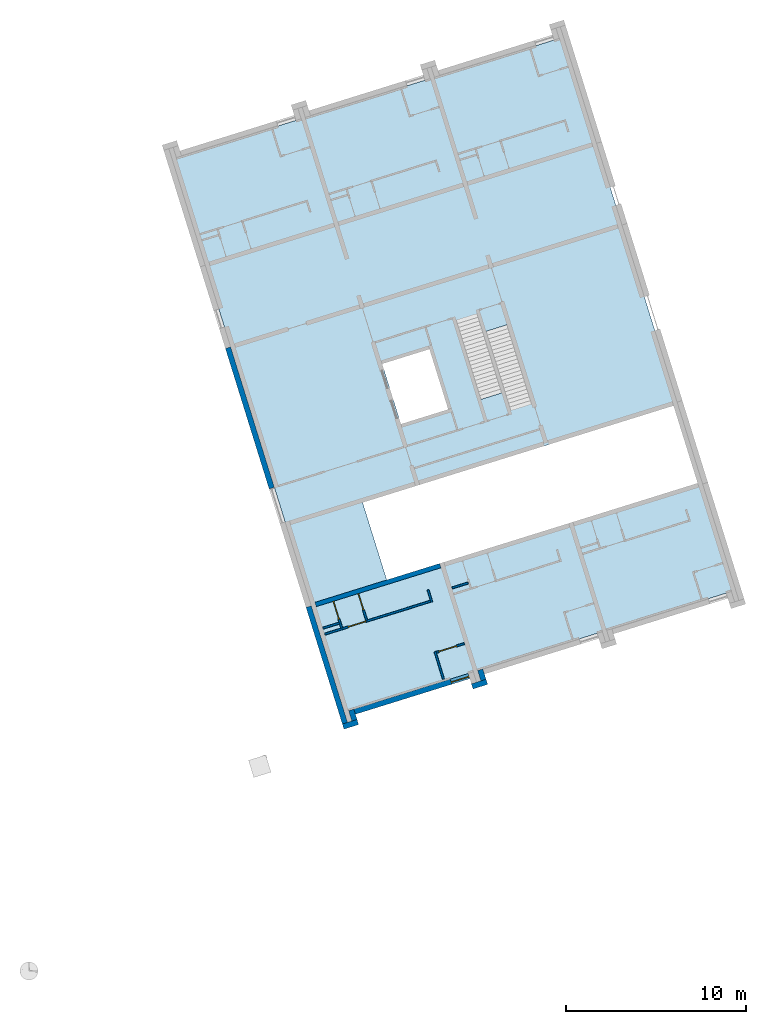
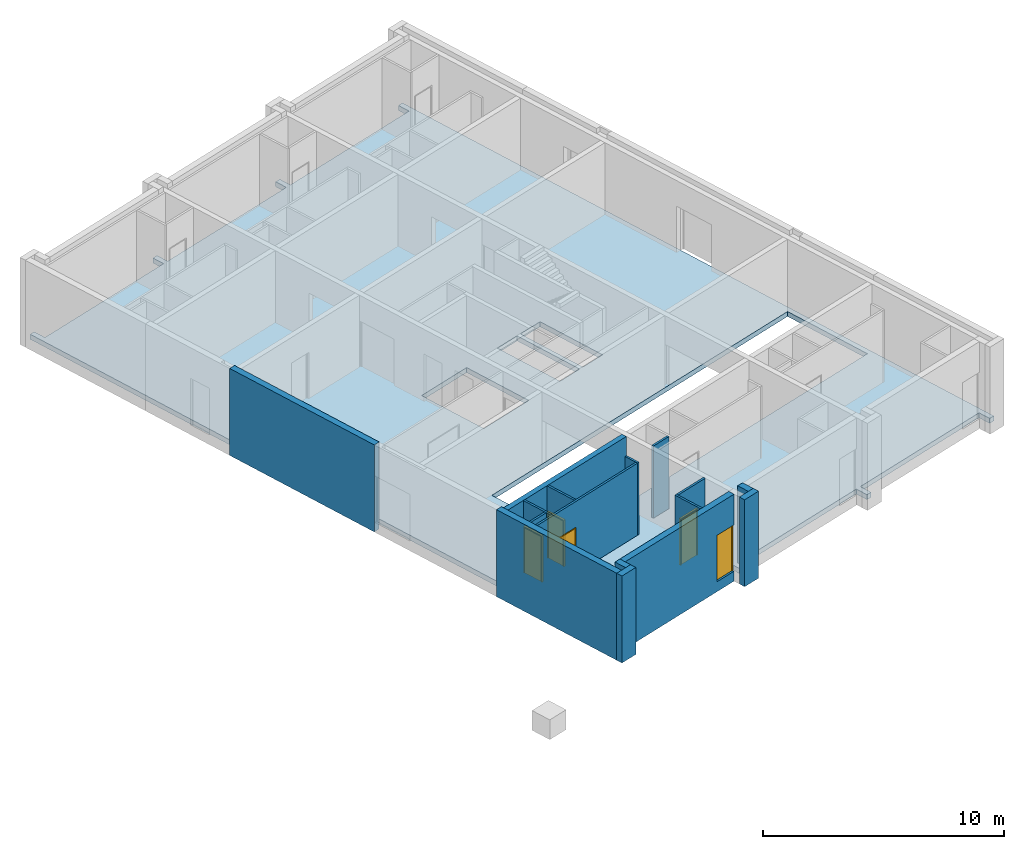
# One storey, part 1 of 10: 16 walls, 5 doors, 1 slab, 10 openings.
"""IFC4 building model written with IfcOpenShell, lengths in metres."""

from ifc_helpers import new_model, entity, si_unit, converted_unit, direction, frame, origin, place, context, subcontext, project, spatial, indexed_curve, outline, extrude, polygons, source, transform, mapped, material, constituent, constituent_set, type_object, type_shapes, element, fill, save


model = new_model("IFC4")

# Units and contexts
model_context = context("Model", 3, precision=1e-05, world=origin(), true_north=direction((6.12323399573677e-17, 1.0)))
body_context = subcontext(model_context, "Body", "Model", "MODEL_VIEW")
ifc_project = project(units=[si_unit("LENGTHUNIT", "METRE"), si_unit("AREAUNIT", "SQUARE_METRE"), si_unit("VOLUMEUNIT", "CUBIC_METRE"), converted_unit("PLANEANGLEUNIT", "DEGREE", entity("IfcPlaneAngleMeasure", 0.0174532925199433), si_unit("PLANEANGLEUNIT", "RADIAN"), dimensions=[0, 0, 0, 0, 0, 0, 0])], contexts=[model_context])

# Site, building, storey
site_placement = place(None, frame((13.1347999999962, 11.9886000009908, 0.0), z_axis=(0.0, 0.0, 1.0), x_axis=(0.954770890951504, 0.297342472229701, 0.0)))
site = spatial("IfcSite", under=ifc_project, at=site_placement, Name="Schiehaven", CompositionType="ELEMENT")
building_placement = place(site_placement, origin())
building = spatial("IfcBuilding", under=site, at=building_placement, Name="VORM huis", CompositionType="ELEMENT")
storey_placement = place(building_placement, origin())
storey = spatial("IfcBuildingStorey", under=building, at=storey_placement, Name="00 begane grond", CompositionType="ELEMENT", Elevation=0.0)

# Slab, openings
ifc_material_1 = material(Name="beton_gewapend_ihw", Category="Miscellaneous")
slab_type = type_object("IfcSlabType", Name="Floor:28_FL_skelet_vloer 250mm", PredefinedType="FLOOR", material=ifc_material_1)
slab_placement = place(storey_placement, origin())
slab = element("IfcSlab", 1, at=slab_placement, inside=storey, type_object=slab_type, material=ifc_material_1, Name="Constructieve vloer", ObjectType="Vloer", PredefinedType="FLOOR", context=body_context, shape_type="SweptSolid", body=[
    extrude(outline(indexed_curve([(-11.375, -16.6750000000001), (-11.1250000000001, -16.6750000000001), (-11.1250000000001, -16.075), (-3.87500000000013, -16.075), (-3.87500000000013, -16.675), (-3.62500000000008, -16.675), (-3.62500000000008, -16.075), (3.6249999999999, -16.075), (3.6249999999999, -16.6750000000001), (3.87500000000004, -16.6750000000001), (3.87500000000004, -16.075), (11.125, -16.0750000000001), (11.125, -16.675), (11.375, -16.675), (11.3750000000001, 16.675), (11.1250000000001, 16.675), (11.1250000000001, 16.075), (3.87500000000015, 16.075), (3.87500000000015, 16.675), (3.625, 16.675), (3.625, 16.075), (-3.62499999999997, 16.075), (-3.62499999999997, 16.675), (-3.87500000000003, 16.675), (-3.87500000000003, 16.075), (-11.125, 16.075), (-11.125, 16.6750000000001), (-11.3749999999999, 16.6750000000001), (-11.375, -16.6750000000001)], self_intersect=False), holes=[indexed_curve([(3.62500000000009, -1.75000000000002), (0.875000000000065, -1.75000000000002), (0.875000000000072, 1.74999999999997), (3.62500000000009, 1.74999999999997), (3.62500000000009, -1.75000000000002)], self_intersect=False), indexed_curve([(-11.1249999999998, 5.27499999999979), (-11.1249999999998, 9.77500000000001), (6.94799999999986, 9.77500000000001), (6.94799999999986, 5.27499999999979), (-11.1249999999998, 5.27499999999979)], self_intersect=False), indexed_curve([(-2.22499999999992, -1.76), (-2.22499999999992, 1.76), (-1.02499999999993, 1.76), (-1.02499999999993, -1.76), (-2.22499999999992, -1.76)], self_intersect=False), indexed_curve([(-2.42499999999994, 1.76), (-2.42499999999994, -1.76000000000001), (-3.62499999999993, -1.76000000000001), (-3.62499999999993, 1.76), (-2.42499999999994, 1.76)], self_intersect=False)]), frame((16.2500000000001, 17.05, -0.25), z_axis=(0.0, 0.0, 1.0), x_axis=(-1.0, 0.0, 0.0)), (0.0, 0.0, 1.0), 0.25),
])
opening_1_placement = place(slab_placement, origin())
element("IfcOpeningElement", 2, at=opening_1_placement, cuts=slab, Name="Constructieve vloer", PredefinedType="OPENING", context=body_context, shape_type="SweptSolid", body=[
    extrude(outline(indexed_curve([(-1.74999999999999, -1.37500000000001), (1.75, -1.37500000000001), (1.75, 1.37500000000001), (-1.75, 1.37500000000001), (-1.74999999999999, -1.37500000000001)], self_intersect=False)), frame((14.0, 17.05, -0.25), z_axis=(0.0, 0.0, 1.0), x_axis=(0.0, -1.0, 0.0)), (0.0, 0.0, 1.0), 0.25),
])
opening_2_placement = place(slab_placement, origin())
element("IfcOpeningElement", 3, at=opening_2_placement, cuts=slab, Name="Constructieve vloer", PredefinedType="OPENING", context=body_context, shape_type="SweptSolid", body=[
    extrude(outline(indexed_curve([(-9.03649999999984, -2.25000000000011), (9.03649999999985, -2.25000000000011), (9.03649999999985, 2.25000000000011), (-9.03649999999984, 2.25000000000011), (-9.03649999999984, -2.25000000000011)], self_intersect=False)), frame((18.3385000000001, 9.5250000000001, -0.25), z_axis=(0.0, 0.0, 1.0), x_axis=(-1.0, 0.0, 0.0)), (0.0, 0.0, 1.0), 0.25),
])
opening_3_placement = place(slab_placement, origin())
element("IfcOpeningElement", 4, at=opening_3_placement, cuts=slab, Name="Constructieve vloer", PredefinedType="OPENING", context=body_context, shape_type="SweptSolid", body=[
    extrude(outline(indexed_curve([(-0.599999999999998, -1.76), (0.599999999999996, -1.76), (0.599999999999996, 1.76), (-0.599999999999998, 1.76), (-0.599999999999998, -1.76)], self_intersect=False)), frame((17.8750000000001, 17.05, -0.25), z_axis=(0.0, 0.0, 1.0), x_axis=(-1.0, 0.0, 0.0)), (0.0, 0.0, 1.0), 0.25),
])

# Walls
ifc_material_2 = material(Name="ntb_ntb_ntb", Category="Miscellaneous")
wall_type_1 = type_object("IfcWallType", Name="Basic Wall: 300mm_gen", PredefinedType="STANDARD")
wall_1_placement = place(storey_placement, frame((4.72500000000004, 0.375000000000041, -0.5), z_axis=(0.0, 0.0, 1.0), x_axis=(0.0, 1.0, 0.0)))
element("IfcWall", 5, at=wall_1_placement, inside=storey, type_object=wall_type_1, material=ifc_material_2, Name="Gevelwand", ObjectType="Wand", PredefinedType="NOTDEFINED", context=body_context, shape_type="SweptSolid", body=[
    extrude(outline(indexed_curve([(6.77500000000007, 0.15), (2.24782887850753e-16, 0.15), (-2.24782887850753e-16, -0.15), (6.77500000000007, -0.15), (6.77500000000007, 0.15)], self_intersect=False)), origin(), (0.0, 0.0, 1.0), 4.4),
])
wall_2_placement = place(storey_placement, frame((4.72500000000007, 14.0400000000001, -0.5), z_axis=(0.0, 0.0, 1.0), x_axis=(0.0, 1.0, 0.0)))
element("IfcWall", 6, at=wall_2_placement, inside=storey, type_object=wall_type_1, material=ifc_material_2, Name="Gevelwand", ObjectType="Wand", PredefinedType="NOTDEFINED", context=body_context, shape_type="SweptSolid", body=[
    extrude(outline(indexed_curve([(8.15999999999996, 0.15), (-3.08537509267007e-16, 0.15), (3.08537509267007e-16, -0.15), (8.15999999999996, -0.15), (8.15999999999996, 0.15)], self_intersect=False)), origin(), (0.0, 0.0, 1.0), 4.4),
])
wall_3_placement = place(storey_placement, frame((5.42500000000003, 0.22500000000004, -0.5), z_axis=(0.0, 0.0, 1.0), x_axis=(-1.0, 0.0, 0.0)))
element("IfcWall", 7, at=wall_3_placement, inside=storey, type_object=wall_type_1, material=ifc_material_2, Name="Gevelwand", ObjectType="Wand", PredefinedType="NOTDEFINED", context=body_context, shape_type="SweptSolid", body=[
    extrude(outline(indexed_curve([(0.84999999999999, 0.15), (-3.08086889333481e-16, 0.15), (3.08086889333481e-16, -0.15), (0.84999999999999, -0.15), (0.84999999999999, 0.15)], self_intersect=False)), origin(), (0.0, 0.0, 1.0), 4.4),
])
wall_4_placement = place(storey_placement, frame((5.27500000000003, 0.975000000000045, -0.5), z_axis=(0.0, 0.0, 1.0), x_axis=(0.0, -1.0, 0.0)))
element("IfcWall", 8, at=wall_4_placement, inside=storey, type_object=wall_type_1, material=ifc_material_2, Name="Gevelwand", ObjectType="Wand", PredefinedType="NOTDEFINED", context=body_context, shape_type="SweptSolid", body=[
    extrude(outline(indexed_curve([(0.600000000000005, 0.149999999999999), (0.0, 0.149999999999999), (0.0, -0.149999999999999), (0.600000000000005, -0.149999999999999), (0.600000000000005, 0.149999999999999)], self_intersect=False)), origin(), (0.0, 0.0, 1.0), 4.4),
])

# Wall, openings, door
wall_5_placement = place(storey_placement, frame((12.075, 0.825000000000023, -0.5), z_axis=(0.0, 0.0, 1.0), x_axis=(-1.0, 0.0, 0.0)))
wall_5 = element("IfcWall", 9, at=wall_5_placement, inside=storey, type_object=wall_type_1, material=ifc_material_2, Name="Gevelwand", ObjectType="Wand", PredefinedType="NOTDEFINED", context=body_context, shape_type="Tessellation", body=[
    polygons([(9.28992242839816e-16, -0.15, 0.0), (6.64999999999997, -0.15, 0.0), (6.64999999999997, -0.15, 4.4), (9.28992242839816e-16, -0.15, 4.4), (9.28992242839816e-16, -0.15, 2.84999999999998), (1.04999999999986, -0.15, 2.84999999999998), (1.04999999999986, -0.15, 0.5), (9.28992242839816e-16, -0.15, 0.5), (6.64999999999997, 0.15, 0.0), (-2.32312960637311e-17, 0.15, 0.0), (-2.32312960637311e-17, 0.15, 0.5), (1.04999999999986, 0.15, 0.5), (1.04999999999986, 0.15, 2.84999999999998), (-2.32312960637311e-17, 0.15, 2.84999999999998), (-2.32312960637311e-17, 0.15, 4.4), (6.64999999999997, 0.15, 4.4)], [[[1, 2, 3, 4, 5, 6, 7, 8]], [[9, 10, 11, 12, 13, 14, 15, 16]], [[2, 1, 10, 9]], [[4, 3, 16, 15]], [[10, 1, 8, 11]], [[3, 2, 9, 16]], [[6, 13, 12, 7]], [[7, 12, 11, 8]], [[13, 6, 5, 14]], [[4, 15, 14, 5]]], closed=True),
])
opening_4_placement = place(wall_5_placement, frame((0.0, -0.15, 0.5)))
opening_4 = element("IfcOpeningElement", 10, at=opening_4_placement, cuts=wall_5, Name="Woningtoegangsdeur", PredefinedType="OPENING", context=body_context, shape_type="SweptSolid", body=[
    extrude(outline(indexed_curve([(2.34999999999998, 1.05), (0.0, 1.05), (0.0, 0.0), (2.34999999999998, 0.0), (2.34999999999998, 1.05)], self_intersect=False)), frame((0.0, 0.0, 0.0), z_axis=(0.0, 1.0, 0.0), x_axis=(0.0, 0.0, 1.0)), (0.0, 0.0, 1.0), 0.3),
])
opening_5_placement = place(wall_5_placement, frame((12.075, 0.825000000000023, 0.5), z_axis=(0.0, 0.0, 1.0), x_axis=(-1.0, 0.0, 0.0)))
element("IfcOpeningElement", 11, at=opening_5_placement, cuts=wall_5, Name="Woningtoegangsdeur", PredefinedType="OPENING", context=body_context, shape_type="SweptSolid", body=[
    extrude(outline(indexed_curve([(-1.17499999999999, -0.525), (1.17499999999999, -0.525), (1.17499999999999, 0.525000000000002), (-1.17499999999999, 0.525000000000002), (-1.17499999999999, -0.525)], self_intersect=False)), frame((11.5500000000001, 2.49900000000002, 1.17499999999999), z_axis=(0.0, -1.0, 0.0), x_axis=(0.0, 0.0, -1.0)), (0.0, 0.0, 1.0), 3.048),
])
ifc_material_3 = material(Name="PD_a_buitenwandopeningen", Category="Miscellaneous")
ifc_constituent_1 = constituent(ifc_material_3, Name="PD_a_buitenwandopeningen", Category="Miscellaneous")
ifc_material_4 = material(Name="metaal_aluminium_ntb", Category="Miscellaneous")
ifc_constituent_2 = constituent(ifc_material_4, Name="metaal_aluminium_ntb", Category="Miscellaneous")
ifc_constituent_set_1 = constituent_set(constituents=[ifc_constituent_1, ifc_constituent_2])
door_type_1 = type_object("IfcDoorType", Name="31_DO_buitendeur enkel:woningtoegangsdeur", OperationType="REVOLVING", PredefinedType="DOOR")
shared_shape_1 = source(origin(), body_context, "Body", "SweptSolid", [
    extrude(outline(indexed_curve([(-1.16249999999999, -0.525000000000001), (1.18749999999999, -0.525), (1.18749999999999, 0.525000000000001), (-1.16249999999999, 0.525), (-1.16249999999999, 0.475), (1.13749999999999, 0.475), (1.13749999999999, -0.475), (-1.16249999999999, -0.475), (-1.16249999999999, -0.525000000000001)], self_intersect=False)), frame((0.525000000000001, 0.130000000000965, 1.16249999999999), z_axis=(0.0, 1.0, 0.0), x_axis=(0.0, 0.0, 1.0)), (0.0, 0.0, 1.0), 0.1),
    extrude(outline(indexed_curve([(-0.025, -0.475), (0.025, -0.475), (0.025, 0.475), (-0.025, 0.475), (-0.025, -0.475)], self_intersect=False)), frame((0.525000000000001, 0.180000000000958, 0.0), z_axis=(0.0, 0.0, 1.0), x_axis=(0.0, 1.0, 0.0)), (0.0, 0.0, 1.0), 2.29999999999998),
])
type_shapes(door_type_1, [shared_shape_1])
door_1_placement = place(opening_4_placement, origin())
door_1 = element("IfcDoor", 12, at=door_1_placement, inside=storey, type_object=door_type_1, material=ifc_constituent_set_1, Name="Woningtoegangsdeur", ObjectType="Deur", OperationType="REVOLVING", OverallHeight=2.34999999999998, OverallWidth=1.05, PredefinedType="DOOR", context=body_context, shape_type="MappedRepresentation", body=[
    mapped(shared_shape_1, transform((0.0, 0.0, 0.0), scale=1.0)),
])
fill(opening_4, door_1)

# Walls
wall_6_placement = place(storey_placement, frame((12.9250000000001, 0.225000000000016, -0.5), z_axis=(0.0, 0.0, 1.0), x_axis=(-1.0, 0.0, 0.0)))
element("IfcWall", 13, at=wall_6_placement, inside=storey, type_object=wall_type_1, material=ifc_material_2, Name="Gevelwand", ObjectType="Wand", PredefinedType="NOTDEFINED", context=body_context, shape_type="SweptSolid", body=[
    extrude(outline(indexed_curve([(0.850000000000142, 0.15), (-3.08086889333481e-16, 0.15), (3.08086889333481e-16, -0.15), (0.850000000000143, -0.15), (0.850000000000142, 0.15)], self_intersect=False)), origin(), (0.0, 0.0, 1.0), 4.4),
])
wall_7_placement = place(storey_placement, frame((12.7750000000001, 0.975000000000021, -0.5), z_axis=(0.0, 0.0, 1.0), x_axis=(0.0, -1.0, 0.0)))
element("IfcWall", 14, at=wall_7_placement, inside=storey, type_object=wall_type_1, material=ifc_material_2, Name="Gevelwand", ObjectType="Wand", PredefinedType="NOTDEFINED", context=body_context, shape_type="SweptSolid", body=[
    extrude(outline(indexed_curve([(0.600000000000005, 0.150000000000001), (0.0, 0.150000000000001), (0.0, -0.150000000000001), (0.600000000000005, -0.150000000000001), (0.600000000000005, 0.150000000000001)], self_intersect=False)), origin(), (0.0, 0.0, 1.0), 4.4),
])
wall_type_2 = type_object("IfcWallType", Name="Basic Wall:22_WA_afbouw_binnenwand 250mm_gen", PredefinedType="STANDARD")
wall_8_placement = place(storey_placement, frame((5.12500000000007, 7.15000000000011, 0.0)))
element("IfcWall", 15, at=wall_8_placement, inside=storey, type_object=wall_type_2, material=ifc_material_2, Name="Binnenwand", ObjectType="Wand", PredefinedType="NOTDEFINED", context=body_context, shape_type="SweptSolid", body=[
    extrude(outline(indexed_curve([(7.24999999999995, 0.124999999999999), (-1.92055213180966e-16, 0.125), (1.92055213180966e-16, -0.125), (7.24999999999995, -0.125000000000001), (7.24999999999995, 0.124999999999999)], self_intersect=False)), origin(), (0.0, 0.0, 1.0), 3.65),
])
wall_type_3 = type_object("IfcWallType", Name="Basic Wall:22_WA_afbouw_binnenwand 100mm_gen", PredefinedType="STANDARD")
wall_9_placement = place(storey_placement, frame((12.6250000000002, 5.77500000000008, 0.0)))
element("IfcWall", 16, at=wall_9_placement, inside=storey, type_object=wall_type_3, material=ifc_material_2, Name="Binnenwand", ObjectType="Wand", PredefinedType="NOTDEFINED", context=body_context, shape_type="SweptSolid", body=[
    extrude(outline(indexed_curve([(0.950000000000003, 0.0499999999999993), (-1.02974192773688e-16, 0.0499999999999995), (1.02974192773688e-16, -0.0499999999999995), (0.950000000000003, -0.0499999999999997), (0.950000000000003, 0.0499999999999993)], self_intersect=False)), origin(), (0.0, 0.0, 1.0), 3.65),
])

# Wall, opening, door
wall_10_placement = place(storey_placement, frame((7.57499999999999, 5.47500000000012, 0.0), z_axis=(0.0, 0.0, 1.0), x_axis=(0.0, 1.0, 0.0)))
wall_10 = element("IfcWall", 17, at=wall_10_placement, inside=storey, type_object=wall_type_3, material=ifc_material_2, Name="Binnenwand", ObjectType="Wand", PredefinedType="NOTDEFINED", context=body_context, shape_type="Tessellation", body=[
    polygons([(1.54999999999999, -0.0499999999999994, 3.65), (0.0, -0.0499999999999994, 3.65), (0.0, -0.0499999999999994, 0.0), (0.599999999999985, -0.0499999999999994, 0.0), (0.599999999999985, -0.0499999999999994, 2.34999999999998), (1.54999999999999, -0.0499999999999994, 2.34999999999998), (0.0, 0.0500000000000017, 3.65), (1.54999999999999, 0.0500000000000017, 3.65), (1.54999999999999, 0.0500000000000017, 2.34999999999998), (0.599999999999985, 0.0500000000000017, 2.34999999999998), (0.599999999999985, 0.0500000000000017, 0.0), (0.0, 0.0500000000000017, 0.0), (0.0, 0.0500000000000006, 2.34999999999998)], [[[1, 2, 3, 4, 5, 6]], [[7, 8, 9, 10, 11, 12, 13]], [[3, 12, 11, 4]], [[8, 1, 6, 9]], [[2, 1, 8, 7]], [[10, 5, 4, 11]], [[5, 10, 9, 6]], [[3, 2, 7, 13, 12]]], closed=True),
])
opening_6_placement = place(wall_10_placement, frame((0.599999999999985, -0.0499999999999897, 0.0)))
opening_6 = element("IfcOpeningElement", 18, at=opening_6_placement, cuts=wall_10, Name="Binnendeur", PredefinedType="OPENING", context=body_context, shape_type="SweptSolid", body=[
    extrude(outline(indexed_curve([(2.34999999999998, 0.950000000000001), (0.0, 0.950000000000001), (0.0, 2.70716782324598e-16), (2.34999999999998, 2.70716782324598e-16), (2.34999999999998, 0.950000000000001)], self_intersect=False)), frame((0.0, 0.0, 0.0), z_axis=(0.0, 1.0, 0.0), x_axis=(0.0, 0.0, 1.0)), (0.0, 0.0, 1.0), 0.1),
])
ifc_material_5 = material(Name="PD_a_binnenwandopeningen", Category="Miscellaneous")
ifc_constituent_3 = constituent(ifc_material_5, Name="PD_a_binnenwandopeningen", Category="Miscellaneous")
ifc_constituent_4 = constituent(ifc_material_4, Name="metaal_aluminium_ntb", Category="Miscellaneous")
ifc_constituent_set_2 = constituent_set(constituents=[ifc_constituent_3, ifc_constituent_4])
door_type_2 = type_object("IfcDoorType", Name="32_DO_binnendeur enkel:kastdeur", OperationType="REVOLVING", PredefinedType="DOOR")
shared_shape_2 = source(origin(), body_context, "Body", "SweptSolid", [
    extrude(outline(indexed_curve([(-1.16249999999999, -0.475000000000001), (1.18749999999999, -0.475000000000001), (1.18749999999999, 0.475000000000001), (-1.16249999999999, 0.475000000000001), (-1.16249999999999, 0.425), (1.13749999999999, 0.425), (1.13749999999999, -0.425), (-1.16249999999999, -0.425), (-1.16249999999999, -0.475000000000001)], self_intersect=False)), frame((0.475000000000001, 0.0, 1.16249999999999), z_axis=(0.0, 1.0, 0.0), x_axis=(0.0, 0.0, 1.0)), (0.0, 0.0, 1.0), 0.1),
    extrude(outline(indexed_curve([(-0.0250000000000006, -0.425), (0.0249999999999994, -0.425), (0.0250000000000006, 0.425), (-0.0249999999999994, 0.425), (-0.0250000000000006, -0.425)], self_intersect=False)), frame((0.475000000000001, 0.0499999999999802, 0.0), z_axis=(0.0, 0.0, 1.0), x_axis=(0.0, 1.0, 0.0)), (0.0, 0.0, 1.0), 2.29999999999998),
])
type_shapes(door_type_2, [shared_shape_2])
door_2_placement = place(opening_6_placement, origin())
door_2 = element("IfcDoor", 19, at=door_2_placement, inside=storey, type_object=door_type_2, material=ifc_constituent_set_2, Name="Binnendeur", ObjectType="Deur", OperationType="REVOLVING", OverallHeight=2.34999999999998, OverallWidth=0.950000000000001, PredefinedType="DOOR", context=body_context, shape_type="MappedRepresentation", body=[
    mapped(shared_shape_2, transform((0.0, 0.0, 0.0), scale=1.0)),
])
fill(opening_6, door_2)

# Wall, openings, door
wall_11_placement = place(storey_placement, frame((11.2750000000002, 5.42500000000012, 0.0), z_axis=(0.0, 0.0, 1.0), x_axis=(-1.0, 0.0, 0.0)))
wall_11 = element("IfcWall", 20, at=wall_11_placement, inside=storey, type_object=wall_type_3, material=ifc_material_2, Name="Binnenwand", ObjectType="Wand", PredefinedType="NOTDEFINED", context=body_context, shape_type="Tessellation", body=[
    polygons([(3.05026480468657e-17, -0.0500000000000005, 0.0), (3.65000000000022, -0.0500000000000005, 0.0), (3.75000000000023, -0.0500000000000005, 0.0), (3.75000000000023, -0.0500000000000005, 2.34999999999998), (4.80000000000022, -0.0500000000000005, 2.34999999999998), (4.80000000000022, -0.0500000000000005, 0.0), (5.10000000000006, -0.0500000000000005, 0.0), (5.20000000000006, -0.0500000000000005, 0.0), (6.15000000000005, -0.0500000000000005, 0.0), (6.15000000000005, -0.0500000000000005, 3.65), (5.20000000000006, -0.0500000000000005, 3.65), (5.10000000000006, -0.0500000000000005, 3.65), (3.75000000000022, -0.0500000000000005, 3.65), (3.65000000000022, -0.0500000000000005, 3.65), (3.05026480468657e-17, -0.0500000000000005, 3.65), (3.75000000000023, 0.0499999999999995, 2.34999999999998), (3.75000000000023, 0.0499999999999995, 0.0), (2.99455220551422e-17, 0.0499999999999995, 0.0), (2.99455220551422e-17, 0.0499999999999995, 3.65), (6.15000000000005, 0.0499999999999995, 3.65), (6.15000000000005, 0.0499999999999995, 0.0), (4.80000000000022, 0.0499999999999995, 0.0), (4.80000000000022, 0.0499999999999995, 2.34999999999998)], [[[1, 2, 3, 4, 5, 6, 7, 8, 9, 10, 11, 12, 13, 14, 15]], [[16, 17, 18, 19, 20, 21, 22, 23]], [[18, 17, 3, 2, 1]], [[10, 9, 21, 20]], [[15, 14, 13, 12, 11, 10, 20, 19]], [[6, 5, 23, 22]], [[4, 3, 17, 16]], [[5, 4, 16, 23]], [[1, 15, 19, 18]], [[22, 21, 9, 8, 7, 6]]], closed=True),
])
opening_7_placement = place(wall_11_placement, frame((3.75000000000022, -0.049999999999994, 0.0)))
opening_7 = element("IfcOpeningElement", 21, at=opening_7_placement, cuts=wall_11, Name="Binnendeur", PredefinedType="OPENING", context=body_context, shape_type="SweptSolid", body=[
    extrude(outline(indexed_curve([(2.34999999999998, 1.05), (0.0, 1.05), (0.0, 0.0), (2.34999999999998, 0.0), (2.34999999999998, 1.05)], self_intersect=False)), frame((0.0, 0.0, 0.0), z_axis=(0.0, 1.0, 0.0), x_axis=(0.0, 0.0, 1.0)), (0.0, 0.0, 1.0), 0.1),
])
opening_8_placement = place(wall_11_placement, frame((11.2750000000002, 5.42500000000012, 0.0), z_axis=(0.0, 0.0, 1.0), x_axis=(-1.0, 0.0, 0.0)))
element("IfcOpeningElement", 22, at=opening_8_placement, cuts=wall_11, Name="Binnendeur", PredefinedType="OPENING", context=body_context, shape_type="SweptSolid", body=[
    extrude(outline(indexed_curve([(-1.17499999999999, -0.525000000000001), (1.17499999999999, -0.525000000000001), (1.17499999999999, 0.525), (-1.17499999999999, 0.525), (-1.17499999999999, -0.525000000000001)], self_intersect=False)), frame((7.0, 6.99900000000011, 1.17499999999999), z_axis=(0.0, -1.0, 0.0), x_axis=(0.0, 0.0, -1.0)), (0.0, 0.0, 1.0), 3.048),
])
ifc_constituent_5 = constituent(ifc_material_5, Name="PD_a_binnenwandopeningen", Category="Miscellaneous")
ifc_constituent_6 = constituent(ifc_material_4, Name="metaal_aluminium_ntb", Category="Miscellaneous")
ifc_constituent_set_3 = constituent_set(constituents=[ifc_constituent_5, ifc_constituent_6])
door_type_3 = type_object("IfcDoorType", Name="32_DO_binnendeur enkel:binnendeur", OperationType="REVOLVING", PredefinedType="DOOR")
shared_shape_3 = source(origin(), body_context, "Body", "SweptSolid", [
    extrude(outline(indexed_curve([(-1.16249999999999, -0.525000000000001), (1.18749999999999, -0.525), (1.18749999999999, 0.525), (-1.16249999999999, 0.525), (-1.16249999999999, 0.475), (1.13749999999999, 0.475), (1.13749999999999, -0.475), (-1.16249999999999, -0.475), (-1.16249999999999, -0.525000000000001)], self_intersect=False)), frame((0.525000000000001, 0.0, 1.16249999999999), z_axis=(0.0, 1.0, 0.0), x_axis=(0.0, 0.0, 1.0)), (0.0, 0.0, 1.0), 0.1),
    extrude(outline(indexed_curve([(-0.025, -0.475), (0.025, -0.475), (0.025, 0.475), (-0.025, 0.475), (-0.025, -0.475)], self_intersect=False)), frame((0.525000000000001, 0.0499999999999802, 0.0), z_axis=(0.0, 0.0, 1.0), x_axis=(0.0, 1.0, 0.0)), (0.0, 0.0, 1.0), 2.29999999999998),
])
type_shapes(door_type_3, [shared_shape_3])
door_3_placement = place(opening_7_placement, origin())
door_3 = element("IfcDoor", 23, at=door_3_placement, inside=storey, type_object=door_type_3, material=ifc_constituent_set_3, Name="Binnendeur", ObjectType="Deur", OperationType="REVOLVING", OverallHeight=2.34999999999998, OverallWidth=1.05, PredefinedType="DOOR", context=body_context, shape_type="MappedRepresentation", body=[
    mapped(shared_shape_3, transform((0.0, 0.0, 0.0), scale=1.0)),
])
fill(opening_7, door_3)

# Wall
wall_12_placement = place(storey_placement, frame((5.12500000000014, 5.77500000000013, 0.0)))
element("IfcWall", 24, at=wall_12_placement, inside=storey, type_object=wall_type_3, material=ifc_material_2, Name="Binnenwand", ObjectType="Wand", PredefinedType="NOTDEFINED", context=body_context, shape_type="SweptSolid", body=[
    extrude(outline(indexed_curve([(0.950000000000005, 0.0499999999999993), (-1.02974192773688e-16, 0.0499999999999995), (1.02974192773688e-16, -0.0499999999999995), (0.950000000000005, -0.0499999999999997), (0.950000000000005, 0.0499999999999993)], self_intersect=False)), origin(), (0.0, 0.0, 1.0), 3.65),
])

# Wall, opening, door
wall_13_placement = place(storey_placement, frame((6.12500000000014, 7.02500000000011, 0.0), z_axis=(0.0, 0.0, 1.0), x_axis=(0.0, -1.0, 0.0)))
wall_13 = element("IfcWall", 25, at=wall_13_placement, inside=storey, type_object=wall_type_3, material=ifc_material_2, Name="Binnenwand", ObjectType="Wand", PredefinedType="NOTDEFINED", context=body_context, shape_type="Tessellation", body=[
    polygons([(1.55, -0.0499999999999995, 3.65), (1.29999999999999, -0.0499999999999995, 3.65), (1.19999999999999, -0.0499999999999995, 3.65), (0.0, -0.0499999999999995, 3.65), (0.0, -0.0499999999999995, 2.34999999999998), (1.05, -0.0499999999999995, 2.34999999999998), (1.05, -0.0499999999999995, 0.0), (1.19999999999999, -0.0499999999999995, 0.0), (1.29999999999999, -0.0499999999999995, 0.0), (1.55, -0.0499999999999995, 0.0), (0.0, 0.0500000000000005, 3.65), (1.55, 0.0500000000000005, 3.65), (1.55, 0.0500000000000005, 0.0), (1.05, 0.0500000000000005, 0.0), (1.05, 0.0500000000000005, 2.34999999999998), (0.0, 0.0500000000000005, 2.34999999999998)], [[[1, 2, 3, 4, 5, 6, 7, 8, 9, 10]], [[11, 12, 13, 14, 15, 16]], [[13, 10, 9, 8, 7, 14]], [[4, 3, 2, 1, 12, 11]], [[4, 11, 16, 5]], [[6, 15, 14, 7]], [[15, 6, 5, 16]], [[1, 10, 13, 12]]], closed=True),
])
opening_9_placement = place(wall_13_placement, frame((0.0, -0.0500000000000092, 0.0)))
opening_9 = element("IfcOpeningElement", 26, at=opening_9_placement, cuts=wall_13, Name="Binnendeur", PredefinedType="OPENING", context=body_context, shape_type="SweptSolid", body=[
    extrude(outline(indexed_curve([(2.34999999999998, 1.05), (0.0, 1.05), (0.0, 2.70716782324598e-16), (2.34999999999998, 2.70716782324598e-16), (2.34999999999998, 1.05)], self_intersect=False)), frame((0.0, 0.0, 0.0), z_axis=(0.0, 1.0, 0.0), x_axis=(0.0, 0.0, 1.0)), (0.0, 0.0, 1.0), 0.1),
])
ifc_constituent_7 = constituent(ifc_material_5, Name="PD_a_binnenwandopeningen", Category="Miscellaneous")
ifc_constituent_8 = constituent(ifc_material_4, Name="metaal_aluminium_ntb", Category="Miscellaneous")
ifc_constituent_set_4 = constituent_set(constituents=[ifc_constituent_7, ifc_constituent_8])
door_4_placement = place(opening_9_placement, origin())
door_4 = element("IfcDoor", 27, at=door_4_placement, inside=storey, type_object=door_type_3, material=ifc_constituent_set_4, Name="Binnendeur", ObjectType="Deur", OperationType="REVOLVING", OverallHeight=2.34999999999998, OverallWidth=1.05, PredefinedType="DOOR", context=body_context, shape_type="MappedRepresentation", body=[
    mapped(shared_shape_3, transform((0.0, 0.0, 0.0), scale=1.0)),
])
fill(opening_9, door_4)

# Wall
wall_14_placement = place(storey_placement, frame((11.3250000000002, 6.07500000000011, 0.0), z_axis=(0.0, 0.0, 1.0), x_axis=(0.0, -1.0, 0.0)))
element("IfcWall", 28, at=wall_14_placement, inside=storey, type_object=wall_type_3, material=ifc_material_2, Name="Binnenwand", ObjectType="Wand", PredefinedType="NOTDEFINED", context=body_context, shape_type="SweptSolid", body=[
    extrude(outline(indexed_curve([(0.699999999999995, 0.0499999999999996), (-1.66873505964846e-16, 0.0499999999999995), (1.66873505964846e-16, -0.0499999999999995), (0.699999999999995, -0.0499999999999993), (0.699999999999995, 0.0499999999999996)], self_intersect=False)), origin(), (0.0, 0.0, 1.0), 3.65),
])

# Wall, opening, door
wall_15_placement = place(storey_placement, frame((12.3750000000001, 2.62500000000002, 0.0), z_axis=(0.0, 0.0, 1.0), x_axis=(-1.0, 0.0, 0.0)))
wall_15 = element("IfcWall", 29, at=wall_15_placement, inside=storey, type_object=wall_type_3, material=ifc_material_2, Name="Binnenwand", ObjectType="Wand", PredefinedType="NOTDEFINED", context=body_context, shape_type="Tessellation", body=[
    polygons([(1.49999999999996, -0.05, 2.34999999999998), (1.49999999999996, -0.05, 0.0), (1.64999999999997, -0.0500000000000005, 0.0), (1.64999999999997, -0.0500000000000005, 3.65), (4.51747371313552e-16, -0.05, 3.65), (4.51747371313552e-16, -0.05, 0.0), (0.449999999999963, -0.05, 0.0), (0.449999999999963, -0.05, 2.34999999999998), (1.64999999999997, 0.05, 0.0), (1.49999999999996, 0.05, 0.0), (1.49999999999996, 0.05, 2.34999999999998), (0.449999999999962, 0.05, 2.34999999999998), (0.449999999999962, 0.05, 0.0), (-2.12836607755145e-16, 0.05, 0.0), (-2.12836607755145e-16, 0.05, 3.65), (1.64999999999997, 0.05, 3.65)], [[[1, 2, 3, 4, 5, 6, 7, 8]], [[9, 10, 11, 12, 13, 14, 15, 16]], [[7, 6, 14, 13]], [[5, 4, 16, 15]], [[6, 5, 15, 14]], [[13, 12, 8, 7]], [[11, 10, 2, 1]], [[12, 11, 1, 8]], [[4, 3, 9, 16]], [[3, 2, 10, 9]]], closed=True),
])
opening_10_placement = place(wall_15_placement, frame((0.449999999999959, -0.0499999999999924, 0.0)))
opening_10 = element("IfcOpeningElement", 30, at=opening_10_placement, cuts=wall_15, Name="Binnendeur", PredefinedType="OPENING", context=body_context, shape_type="SweptSolid", body=[
    extrude(outline(indexed_curve([(2.34999999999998, 1.35358391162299e-15), (2.34999999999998, 1.05), (0.0, 1.05), (0.0, 1.35358391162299e-15), (2.34999999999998, 1.35358391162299e-15)], self_intersect=False)), frame((0.0, 0.0, 0.0), z_axis=(0.0, 1.0, 0.0), x_axis=(0.0, 0.0, 1.0)), (0.0, 0.0, 1.0), 0.1),
])
ifc_constituent_9 = constituent(ifc_material_5, Name="PD_a_binnenwandopeningen", Category="Miscellaneous")
ifc_constituent_10 = constituent(ifc_material_4, Name="metaal_aluminium_ntb", Category="Miscellaneous")
ifc_constituent_set_5 = constituent_set(constituents=[ifc_constituent_9, ifc_constituent_10])
shared_shape_4 = source(origin(), body_context, "Body", "SweptSolid", [
    extrude(outline(indexed_curve([(0.475, -1.16249999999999), (0.525, -1.16249999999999), (0.525, 1.18749999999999), (-0.525, 1.18749999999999), (-0.525, -1.16249999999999), (-0.475, -1.16249999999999), (-0.475, 1.13749999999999), (0.475, 1.13749999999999), (0.475, -1.16249999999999)], self_intersect=False)), frame((0.525000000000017, 0.100000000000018, 1.16249999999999), z_axis=(0.0, -1.0, 0.0), x_axis=(1.0, 0.0, 0.0)), (0.0, 0.0, 1.0), 0.1),
    extrude(outline(indexed_curve([(-0.475, -0.025), (0.475, -0.025), (0.475, 0.025), (-0.475, 0.025), (-0.475, -0.025)], self_intersect=False)), frame((0.525000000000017, 0.0499999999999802, 0.0)), (0.0, 0.0, 1.0), 2.29999999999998),
])
door_5_placement = place(opening_10_placement, origin())
door_5 = element("IfcDoor", 31, at=door_5_placement, inside=storey, type_object=door_type_3, material=ifc_constituent_set_5, Name="Binnendeur", ObjectType="Deur", OperationType="REVOLVING", OverallHeight=2.34999999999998, OverallWidth=1.05, PredefinedType="DOOR", context=body_context, shape_type="MappedRepresentation", body=[
    mapped(shared_shape_4, transform((0.0, 0.0, 0.0), scale=1.0)),
])
fill(opening_10, door_5)

# Wall
wall_16_placement = place(storey_placement, frame((10.6750000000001, 2.67500000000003, 0.0), z_axis=(0.0, 0.0, 1.0), x_axis=(0.0, -1.0, 0.0)))
element("IfcWall", 32, at=wall_16_placement, inside=storey, type_object=wall_type_3, material=ifc_material_2, Name="Binnenwand", ObjectType="Wand", PredefinedType="NOTDEFINED", context=body_context, shape_type="SweptSolid", body=[
    extrude(outline(indexed_curve([(1.6, 0.0500000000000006), (-2.37762306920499e-16, 0.0499999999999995), (2.37762306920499e-16, -0.0499999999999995), (1.6, -0.0499999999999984), (1.6, 0.0500000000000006)], self_intersect=False)), origin(), (0.0, 0.0, 1.0), 3.65),
])

save(model, "model.ifc")
